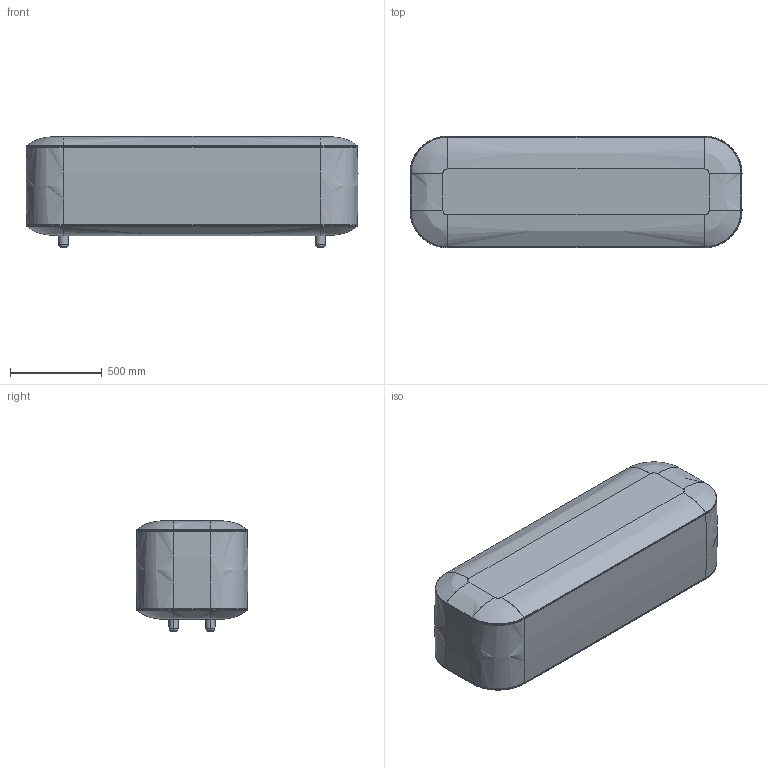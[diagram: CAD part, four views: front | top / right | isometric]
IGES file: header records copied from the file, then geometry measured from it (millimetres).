
Start section: SolidWorks IGES file using analytic representation for surfaces
Global section: file name: C:\Users\Usuario\Dropbox\Viccarbe\ARCHIVOS ENVIAR SILVIA\3D\Common\6- CO180H (180x60 alto)\IGES\CO180H.IGS; native system: SolidWorks 2013; preprocessor: SolidWorks 2013; author: Usuario; date: 130514.124723; units: millimetre
Bounding box: 1808.92 x 608.92 x 605 mm (x, y, z)
Surface area: 8367681.8 mm2 (no closed solid volume)
Topology: 0 solids, 0 shells, 118 faces, 1249 edges, 1249 vertices
Faces by surface type: bspline 82, revolution 36
